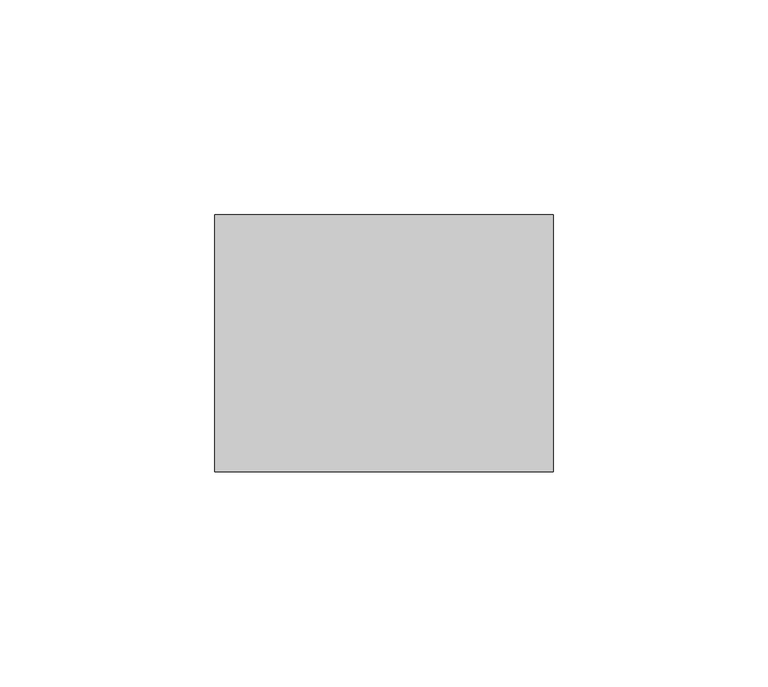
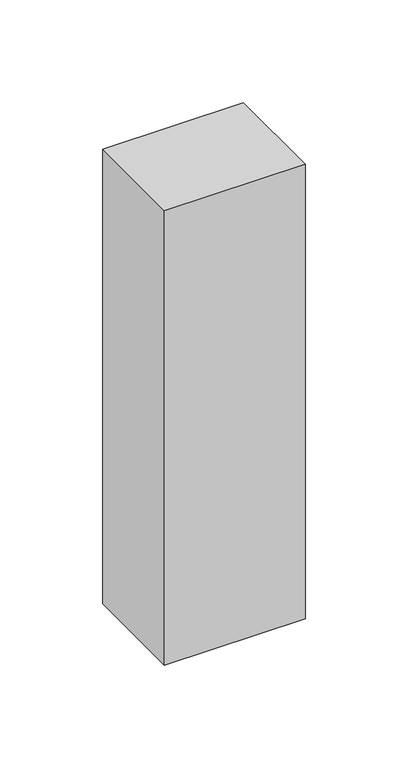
"""IFC4 building model written with IfcOpenShell, lengths in millimetres: plate geometry, Системная панель : Алюкобонд серый."""

from ifc_helpers import new_model, si_unit, origin, origin_with_axes, place, context, project, spatial, polyline, outline, extrude, source, transform, mapped, element, save


def plate_bd1a1349(model_context):
    return source(origin(), model_context, "Body", "SweptSolid", [
        extrude(outline(polyline([(39.5, -10.5), (-39.5, -10.5), (-39.5, 49.5), (39.5, 49.5), (39.5, -10.5)])), origin_with_axes(), (0.0, 0.0, 1.0), 270.0),
    ])


if __name__ == "__main__":
    model = new_model("IFC4")
    model_context = context("Model", 3, world=origin())
    ifc_project = project(units=[si_unit("LENGTHUNIT", "METRE", prefix="MILLI")], contexts=[model_context])
    site = spatial("IfcSite", under=ifc_project)
    building = spatial("IfcBuilding", under=site)
    placement = place(None, origin())
    plate_shape = plate_bd1a1349(model_context)
    element("IfcPlate", 1, ObjectType="Системная панель : Алюкобонд серый", at=placement, inside=building, context=model_context, shape_type="MappedRepresentation", body=[
        mapped(plate_shape, transform((0.0, 0.0, 0.0), x_axis=(1.0, 0.0, 0.0), y_axis=(0.0, 1.0, 0.0), z_axis=(0.0, 0.0, 1.0))),
    ])
    save(model, "model.ifc")
